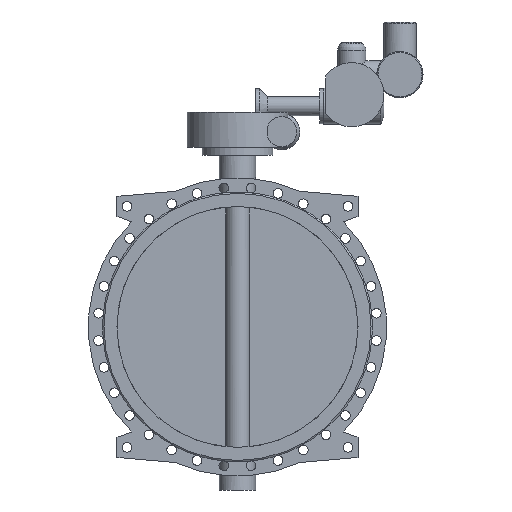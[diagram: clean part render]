
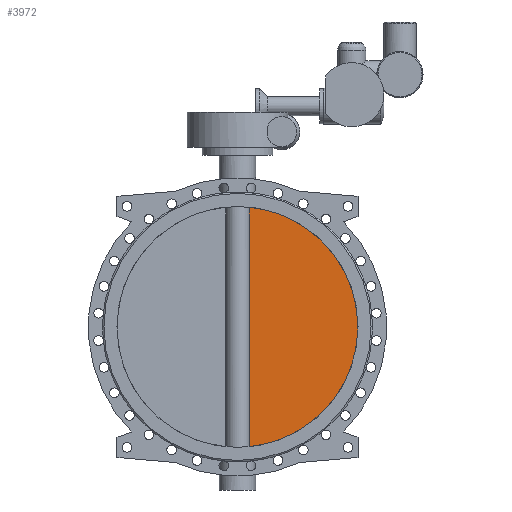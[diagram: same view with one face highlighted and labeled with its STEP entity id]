
A CAD part, front view. The second image highlights one B-rep face of the part: STEP entity #3972.
In plain terms, the highlighted planar face has unit normal (0, -1, 0).
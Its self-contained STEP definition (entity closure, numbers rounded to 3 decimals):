
#3972=ADVANCED_FACE('',(#7456),#7458,.T.);
#7456=FACE_BOUND('',#7457,.T.);
#7457=EDGE_LOOP('',(#10104,#10105));
#7458=PLANE('',#7459);
#7459=AXIS2_PLACEMENT_3D('',#7460,#7461,#7462);
#7460=CARTESIAN_POINT('',(0.,-10.,0.));
#7461=DIRECTION('',(0.,-1.,0.));
#7462=DIRECTION('',(1.,0.,0.));
#10104=ORIENTED_EDGE('',*,*,#11420,.T.);
#10105=ORIENTED_EDGE('',*,*,#11430,.T.);
#11420=EDGE_CURVE('',#13637,#13638,#13639,.F.);
#11430=EDGE_CURVE('',#13638,#13637,#13657,.T.);
#13637=VERTEX_POINT('',#23508);
#13638=VERTEX_POINT('',#23509);
#13639=CIRCLE('',#23510,600.);
#13657=LINE('',#23839,#23840);
#23508=CARTESIAN_POINT('',(59.161,-10.,-597.076));
#23509=CARTESIAN_POINT('',(59.161,-10.,597.076));
#23510=AXIS2_PLACEMENT_3D('',#23511,#23512,#23513);
#23511=CARTESIAN_POINT('',(0.,-10.,0.));
#23512=DIRECTION('',(0.,1.,0.));
#23513=DIRECTION('',(0.099,0.,0.995));
#23839=CARTESIAN_POINT('',(59.161,-10.,597.076));
#23840=VECTOR('',#23841,1.);
#23841=DIRECTION('',(0.,0.,-1.));
